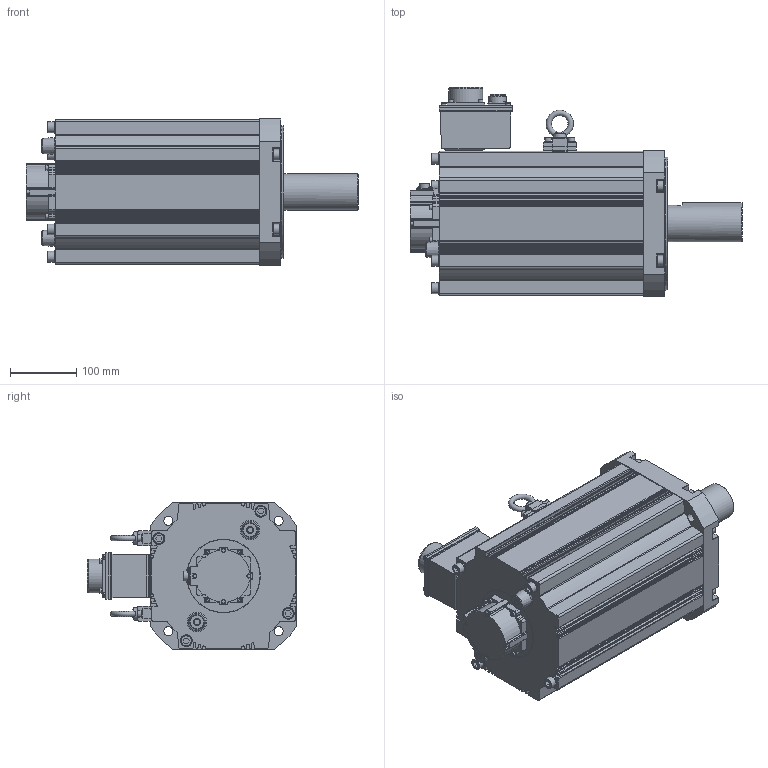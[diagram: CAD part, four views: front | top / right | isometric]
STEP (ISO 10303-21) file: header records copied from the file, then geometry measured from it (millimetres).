
FILE_DESCRIPTION( ( 'STEP AP0' ), '1' );
FILE_NAME( '//expscmdclustefs.cadenas.external/client_exchange/iodir/jobs/output/wkb64909208_no0/STEP/MDMEC54G1G_2_03.stp', ' ', ( ' ' ), ( ' ' ), 'PSStep 15.0.47', 'PARTsolutions', ' ' );
FILE_SCHEMA( ( 'CONFIG_CONTROL_DESIGN' ) );
Length unit declared in the file: millimetre
Products named in the file (1): HI_MDMEC54G1G
Bounding box: 500 x 315 x 220 mm (x, y, z)
Volume: 15231079.6 mm3; surface area: 557540.9 mm2
Topology: 1 solids, 1 shells, 1048 faces, 2688 edges, 1763 vertices
Faces by surface type: plane 606, cylinder 373, cone 50, torus 15, sphere 4
Full cylindrical faces by diameter (mm): 4.134 x1, 5 x4, 5.5 x8, 7 x12, 8 x14, 10 x6, 11 x4, 13.5 x4, 14.8 x1, 16 x12, 18 x12, 22.8 x1, 26.38 x1, 49.272 x1, 50.8 x1, 55 x1, 75 x1, 90 x1, 110 x1, 110.94 x1, 190 x1, 200 x1
Entity records: 31510 total; most frequent: CARTESIAN_POINT 6018, DIRECTION 5336, ORIENTED_EDGE 5044, EDGE_CURVE 2522, AXIS2_PLACEMENT_3D 1828, VERTEX_POINT 1752, LINE 1680, VECTOR 1680
